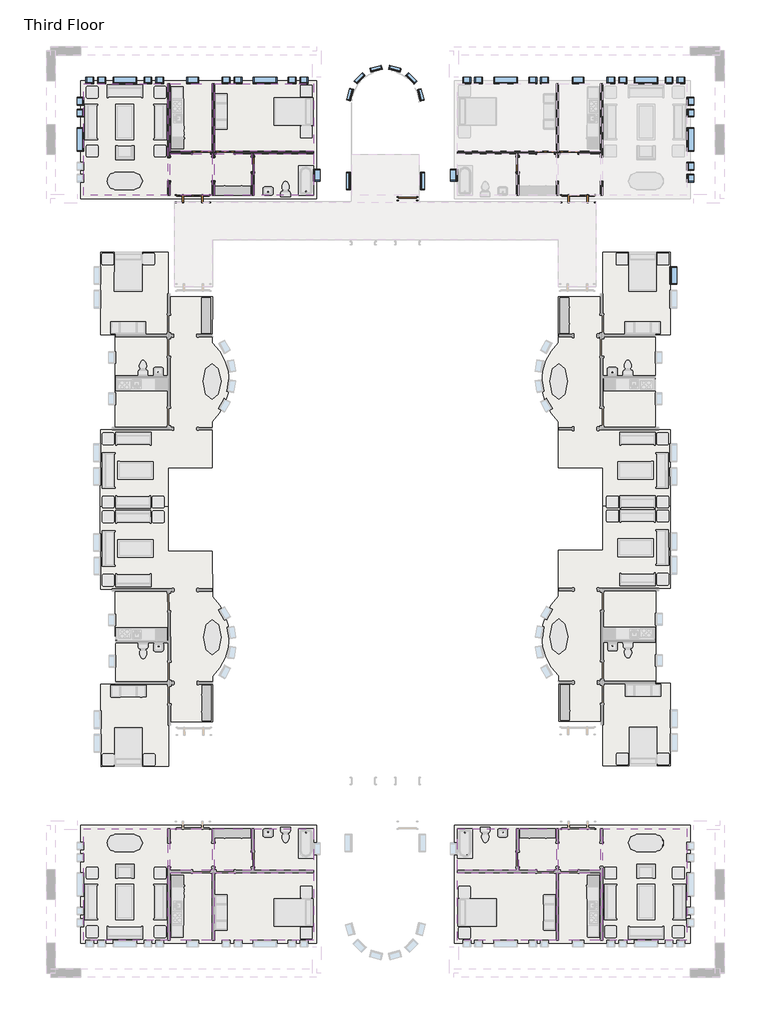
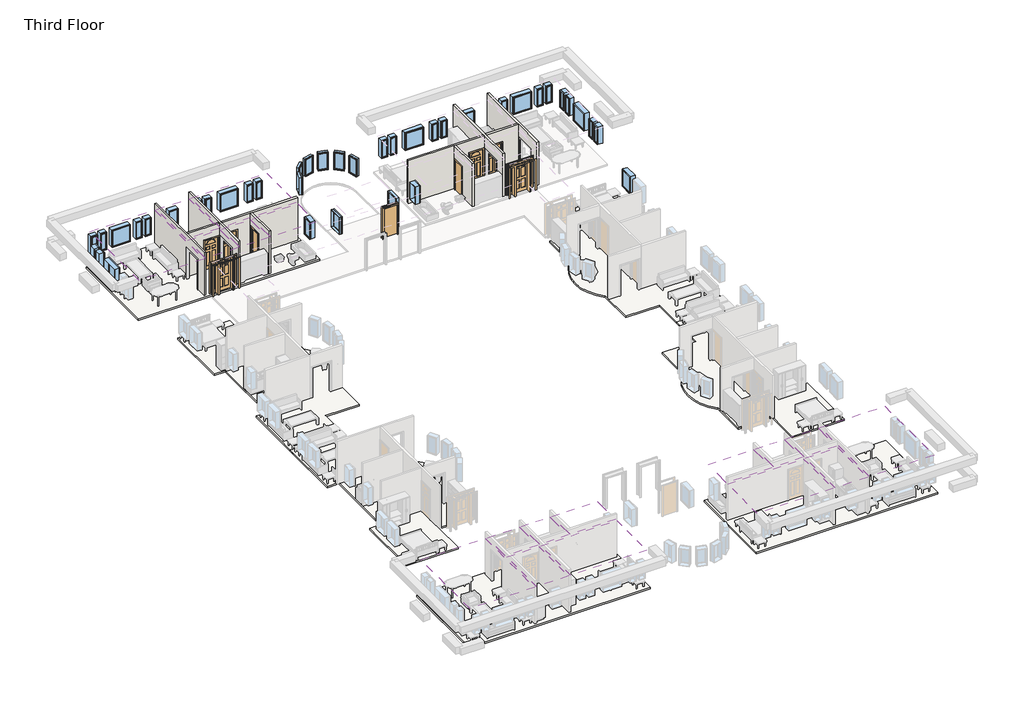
# One storey, part 3 of 5: 41 windows, 18 coverings, 10 walls, 9 doors, 7 slabs.
"""IFC4 building model written with IfcOpenShell, lengths in millimetres."""

from ifc_helpers import new_model, si_unit, point, frame, frame_2d, origin, place, context, project, spatial, polyline, circle_curve, trimmed, segment, composite_curve, outline, extrude, faceted_brep, transform, mapped, element, save
from components import door_829da954, door_2e3b4da2, door_4d6c7550, door_e36758a9, door_16372e1c, door_dba5aa2e, door_ffdb1193, window_da97879f, window_d61ef850, window_60baf983, window_ed80354a, window_80bd9af0, window_0e2fc6ce, window_e2841890, window_6eb97611, window_d89bf842

model = new_model("IFC4")

# Units and contexts
model_context = context("Model", 3, world=origin())
ifc_project = project(units=[si_unit("LENGTHUNIT", "METRE", prefix="MILLI")], contexts=[model_context])

# Site, building, storey
site = spatial("IfcSite", under=ifc_project)
building = spatial("IfcBuilding", under=site)
storey = spatial("IfcBuildingStorey", under=building, Name="Third Floor", Elevation=6096.0)

# Coverings
placement = place(None, origin())
element("IfcCovering", 1, ObjectType="GWB on Mtl. Stud", at=placement, inside=storey, context=model_context, shape_type="SweptSolid", body=[
    extrude(outline(polyline([(-18653.0964563, 10270.0191867), (-18653.0964563, 6787.0441867), (-23747.3839563, 6787.0441867), (-23747.3839563, 10270.0191867), (-18653.0964563, 10270.0191867)])), frame((0.0, 0.0, 8686.8), z_axis=(0.0, 0.0, 1.0), x_axis=(1.0, 0.0, 0.0)), (0.0, 0.0, 1.0), 107.95),
])
element("IfcCovering", 2, ObjectType="GWB on Mtl. Stud", at=placement, inside=storey, context=model_context, shape_type="SweptSolid", body=[
    extrude(outline(polyline([(-23874.3839563, 6787.0441867), (-26033.3839563, 6787.0441867), (-26033.3839563, 10270.0191867), (-23874.3839563, 10270.0191867), (-23874.3839563, 6787.0441867)])), frame((0.0, 0.0, 8686.8), z_axis=(0.0, 0.0, 1.0), x_axis=(1.0, 0.0, 0.0)), (0.0, 0.0, 1.0), 107.95),
])
element("IfcCovering", 3, ObjectType="GWB on Mtl. Stud", at=placement, inside=storey, context=model_context, shape_type="SweptSolid", body=[
    extrude(outline(polyline([(-26160.3839563, 4526.4441867), (-30492.6714563, 4526.4441867), (-30492.6714563, 10270.0191867), (-26160.3839563, 10270.0191867), (-26160.3839563, 4526.4441867)])), frame((0.0, 0.0, 8686.8), z_axis=(0.0, 0.0, 1.0), x_axis=(1.0, 0.0, 0.0)), (0.0, 0.0, 1.0), 107.95),
])
element("IfcCovering", 4, ObjectType="GWB on Mtl. Stud", at=placement, inside=storey, context=model_context, shape_type="SweptSolid", body=[
    extrude(outline(polyline([(-26033.3839563, 4526.4441867), (-26033.3839563, 6660.0441867), (-23874.3839563, 6660.0441867), (-23874.3839563, 4526.4441867), (-26033.3839563, 4526.4441867)])), frame((0.0, 0.0, 8686.8), z_axis=(0.0, 0.0, 1.0), x_axis=(1.0, 0.0, 0.0)), (0.0, 0.0, 1.0), 107.95),
])
element("IfcCovering", 5, ObjectType="GWB on Mtl. Stud", at=placement, inside=storey, context=model_context, shape_type="SweptSolid", body=[
    extrude(outline(polyline([(-23747.3839563, 4526.4441867), (-23747.3839563, 6660.0441867), (-21828.0964563, 6660.0441867), (-21828.0964563, 4526.4441867), (-23747.3839563, 4526.4441867)])), frame((0.0, 0.0, 8686.8), z_axis=(0.0, 0.0, 1.0), x_axis=(1.0, 0.0, 0.0)), (0.0, 0.0, 1.0), 107.95),
])
element("IfcCovering", 6, ObjectType="GWB on Mtl. Stud", at=placement, inside=storey, context=model_context, shape_type="SweptSolid", body=[
    extrude(outline(polyline([(-21701.0964563, 6660.0441867), (-18653.0964563, 6660.0441867), (-18653.0964563, 4526.4441867), (-21701.0964563, 4526.4441867), (-21701.0964563, 6660.0441867)])), frame((0.0, 0.0, 8686.8), z_axis=(0.0, 0.0, 1.0), x_axis=(1.0, 0.0, 0.0)), (0.0, 0.0, 1.0), 107.95),
])
element("IfcCovering", 7, ObjectType="GWB on Mtl. Stud", at=placement, inside=storey, context=model_context, shape_type="SweptSolid", body=[
    extrude(outline(polyline([(-11217.2464563, -33878.3558133), (-11217.2464563, -30395.3808133), (-6122.9589563, -30395.3808133), (-6122.9589563, -33878.3558133), (-11217.2464563, -33878.3558133)])), frame((0.0, 0.0, 8686.8), z_axis=(0.0, 0.0, 1.0), x_axis=(1.0, 0.0, 0.0)), (0.0, 0.0, 1.0), 107.95),
])
element("IfcCovering", 8, ObjectType="GWB on Mtl. Stud", at=placement, inside=storey, context=model_context, shape_type="SweptSolid", body=[
    extrude(outline(polyline([(-5995.9589563, -30395.3808133), (-3836.9589563, -30395.3808133), (-3836.9589563, -33878.3558133), (-5995.9589563, -33878.3558133), (-5995.9589563, -30395.3808133)])), frame((0.0, 0.0, 8686.8), z_axis=(0.0, 0.0, 1.0), x_axis=(1.0, 0.0, 0.0)), (0.0, 0.0, 1.0), 107.95),
])
element("IfcCovering", 9, ObjectType="GWB on Mtl. Stud", at=placement, inside=storey, context=model_context, shape_type="SweptSolid", body=[
    extrude(outline(polyline([(-3709.9589563, -28134.7808133), (622.3285437, -28134.7808133), (622.3285437, -33878.3558133), (-3709.9589563, -33878.3558133), (-3709.9589563, -28134.7808133)])), frame((0.0, 0.0, 8686.8), z_axis=(0.0, 0.0, 1.0), x_axis=(1.0, 0.0, 0.0)), (0.0, 0.0, 1.0), 107.95),
])
element("IfcCovering", 10, ObjectType="GWB on Mtl. Stud", at=placement, inside=storey, context=model_context, shape_type="SweptSolid", body=[
    extrude(outline(polyline([(-3836.9589563, -28134.7808133), (-3836.9589563, -30268.3808133), (-5995.9589563, -30268.3808133), (-5995.9589563, -28134.7808133), (-3836.9589563, -28134.7808133)])), frame((0.0, 0.0, 8686.8), z_axis=(0.0, 0.0, 1.0), x_axis=(1.0, 0.0, 0.0)), (0.0, 0.0, 1.0), 107.95),
])
element("IfcCovering", 11, ObjectType="GWB on Mtl. Stud", at=placement, inside=storey, context=model_context, shape_type="SweptSolid", body=[
    extrude(outline(polyline([(-6122.9589563, -28134.7808133), (-6122.9589563, -30268.3808133), (-8042.2464563, -30268.3808133), (-8042.2464563, -28134.7808133), (-6122.9589563, -28134.7808133)])), frame((0.0, 0.0, 8686.8), z_axis=(0.0, 0.0, 1.0), x_axis=(1.0, 0.0, 0.0)), (0.0, 0.0, 1.0), 107.95),
])
element("IfcCovering", 12, ObjectType="GWB on Mtl. Stud", at=placement, inside=storey, context=model_context, shape_type="SweptSolid", body=[
    extrude(outline(polyline([(-8169.2464563, -30268.3808133), (-11217.2464563, -30268.3808133), (-11217.2464563, -28134.7808133), (-8169.2464563, -28134.7808133), (-8169.2464563, -30268.3808133)])), frame((0.0, 0.0, 8686.8), z_axis=(0.0, 0.0, 1.0), x_axis=(1.0, 0.0, 0.0)), (0.0, 0.0, 1.0), 107.95),
])
element("IfcCovering", 13, ObjectType="GWB on Mtl. Stud", at=placement, inside=storey, context=model_context, shape_type="SweptSolid", body=[
    extrude(outline(polyline([(-18653.0964563, -33878.3558133), (-23747.3839563, -33878.3558133), (-23747.3839563, -30395.3808133), (-18653.0964563, -30395.3808133), (-18653.0964563, -33878.3558133)])), frame((0.0, 0.0, 8686.8), z_axis=(0.0, 0.0, 1.0), x_axis=(1.0, 0.0, 0.0)), (0.0, 0.0, 1.0), 107.95),
])
element("IfcCovering", 14, ObjectType="GWB on Mtl. Stud", at=placement, inside=storey, context=model_context, shape_type="SweptSolid", body=[
    extrude(outline(polyline([(-23874.3839563, -30395.3808133), (-23874.3839563, -33878.3558133), (-26033.3839563, -33878.3558133), (-26033.3839563, -30395.3808133), (-23874.3839563, -30395.3808133)])), frame((0.0, 0.0, 8686.8), z_axis=(0.0, 0.0, 1.0), x_axis=(1.0, 0.0, 0.0)), (0.0, 0.0, 1.0), 107.95),
])
element("IfcCovering", 15, ObjectType="GWB on Mtl. Stud", at=placement, inside=storey, context=model_context, shape_type="SweptSolid", body=[
    extrude(outline(polyline([(-26160.3839563, -28134.7808133), (-26160.3839563, -33878.3558133), (-30492.6714563, -33878.3558133), (-30492.6714563, -28134.7808133), (-26160.3839563, -28134.7808133)])), frame((0.0, 0.0, 8686.8), z_axis=(0.0, 0.0, 1.0), x_axis=(1.0, 0.0, 0.0)), (0.0, 0.0, 1.0), 107.95),
])
element("IfcCovering", 16, ObjectType="GWB on Mtl. Stud", at=placement, inside=storey, context=model_context, shape_type="SweptSolid", body=[
    extrude(outline(polyline([(-26033.3839563, -28134.7808133), (-23874.3839563, -28134.7808133), (-23874.3839563, -30268.3808133), (-26033.3839563, -30268.3808133), (-26033.3839563, -28134.7808133)])), frame((0.0, 0.0, 8686.8), z_axis=(0.0, 0.0, 1.0), x_axis=(1.0, 0.0, 0.0)), (0.0, 0.0, 1.0), 107.95),
])
element("IfcCovering", 17, ObjectType="GWB on Mtl. Stud", at=placement, inside=storey, context=model_context, shape_type="SweptSolid", body=[
    extrude(outline(polyline([(-23747.3839563, -28134.7808133), (-21828.0964563, -28134.7808133), (-21828.0964563, -30268.3808133), (-23747.3839563, -30268.3808133), (-23747.3839563, -28134.7808133)])), frame((0.0, 0.0, 8686.8), z_axis=(0.0, 0.0, 1.0), x_axis=(1.0, 0.0, 0.0)), (0.0, 0.0, 1.0), 107.95),
])
element("IfcCovering", 18, ObjectType="GWB on Mtl. Stud", at=placement, inside=storey, context=model_context, shape_type="SweptSolid", body=[
    extrude(outline(polyline([(-21701.0964563, -30268.3808133), (-21701.0964563, -28134.7808133), (-18653.0964563, -28134.7808133), (-18653.0964563, -30268.3808133), (-21701.0964563, -30268.3808133)])), frame((0.0, 0.0, 8686.8), z_axis=(0.0, 0.0, 1.0), x_axis=(1.0, 0.0, 0.0)), (0.0, 0.0, 1.0), 107.95),
])

# Doors
door_shape = door_829da954(model_context)
element("IfcDoor", 19, ObjectType="Single-Decorative 2 : 36\" x 84\"", at=placement, inside=storey, context=model_context, shape_type="MappedRepresentation", body=[
    mapped(door_shape, transform((-5449.8589563, 6723.5441867, 6096.0), x_axis=(-1.0, 0.0, 0.0), y_axis=(0.0, -1.0, 0.0), z_axis=(0.0, 0.0, 1.0))),
])
element("IfcDoor", 20, ObjectType="Single-Decorative 2 : 36\" x 84\"", at=placement, inside=storey, context=model_context, shape_type="MappedRepresentation", body=[
    mapped(door_shape, transform((-23201.2839563, 6723.5441867, 6096.0), x_axis=(-1.0, 0.0, 0.0), y_axis=(0.0, -1.0, 0.0), z_axis=(0.0, 0.0, 1.0))),
])
door_2_shape = door_2e3b4da2(model_context)
element("IfcDoor", 21, ObjectType="Single-Decorative 2 : 36\" x 84\"", at=placement, inside=storey, context=model_context, shape_type="MappedRepresentation", body=[
    mapped(door_2_shape, transform((-6669.0589563, 6723.5441867, 6096.0), x_axis=(1.0, 0.0, 0.0), y_axis=(0.0, 1.0, 0.0), z_axis=(0.0, 0.0, 1.0))),
])
element("IfcDoor", 22, ObjectType="Single-Decorative 2 : 36\" x 84\"", at=placement, inside=storey, context=model_context, shape_type="MappedRepresentation", body=[
    mapped(door_2_shape, transform((-24420.4839563, 6723.5441867, 6096.0), x_axis=(1.0, 0.0, 0.0), y_axis=(0.0, 1.0, 0.0), z_axis=(0.0, 0.0, 1.0))),
])
door_3_shape = door_4d6c7550(model_context)
element("IfcDoor", 23, ObjectType="Single-Flush : 30\" x 84\"", at=placement, inside=storey, context=model_context, shape_type="MappedRepresentation", body=[
    mapped(door_3_shape, transform((-8105.7464563, 6113.9441867, 6096.0), x_axis=(0.0, 1.0, 0.0), y_axis=(-1.0, 0.0, 0.0), z_axis=(0.0, 0.0, 1.0))),
])
door_4_shape = door_e36758a9(model_context)
element("IfcDoor", 24, ObjectType="Single-Flush : 30\" x 84\"", at=placement, inside=storey, context=model_context, shape_type="MappedRepresentation", body=[
    mapped(door_4_shape, transform((-21764.5964563, 6113.9441867, 6096.0), x_axis=(0.0, 1.0, 0.0), y_axis=(-1.0, 0.0, 0.0), z_axis=(0.0, 0.0, 1.0))),
])
door_5_shape = door_16372e1c(model_context)
element("IfcDoor", 25, ObjectType="Single-Flush : 36\" x 84\"", at=placement, inside=storey, context=model_context, shape_type="MappedRepresentation", body=[
    mapped(door_5_shape, transform((-13792.1714563, 4350.2316867, 6096.0), x_axis=(1.0, 0.0, 0.0), y_axis=(0.0, 1.0, 0.0), z_axis=(0.0, 0.0, 1.0))),
])
door_6_shape = door_dba5aa2e(model_context)
element("IfcDoor", 26, ObjectType="Single-Raised Panel with Sidelights : 36\" x 84\"", at=placement, inside=storey, context=model_context, shape_type="MappedRepresentation", body=[
    mapped(door_6_shape, transform((-4992.6589563, 4350.2316867, 6096.0), x_axis=(-1.0, 0.0, 0.0), y_axis=(0.0, -1.0, 0.0), z_axis=(0.0, 0.0, 1.0))),
])
door_7_shape = door_ffdb1193(model_context)
element("IfcDoor", 27, ObjectType="Single-Raised Panel with Sidelights : 36\" x 84\"", at=placement, inside=storey, context=model_context, shape_type="MappedRepresentation", body=[
    mapped(door_7_shape, transform((-24877.6839563, 4350.2316867, 6096.0), x_axis=(1.0, 0.0, 0.0), y_axis=(0.0, 1.0, 0.0), z_axis=(0.0, 0.0, 1.0))),
])

# Slabs
element("IfcSlab", 28, ObjectType="LW Concrete on Metal Deck", at=placement, inside=storey, context=model_context, shape_type="SweptSolid", body=[
    extrude(outline(polyline([(-30657.7714563, 10435.1191867), (-18487.9964563, 10435.1191867), (-18487.9964563, 4361.3441867), (-30657.7714563, 4361.3441867), (-30657.7714563, 10435.1191867)])), frame((0.0, 0.0, 5991.225), z_axis=(0.0, 0.0, 1.0), x_axis=(1.0, 0.0, 0.0)), (0.0, 0.0, 1.0), 104.775),
])
element("IfcSlab", 29, ObjectType="LW Concrete on Metal Deck", at=placement, inside=storey, context=model_context, shape_type="SweptSolid", body=[
    extrude(outline(polyline([(787.4285437, -34043.4558133), (-11382.3464563, -34043.4558133), (-11382.3464563, -27969.6808133), (787.4285437, -27969.6808133), (787.4285437, -34043.4558133)])), frame((0.0, 0.0, 5991.225), z_axis=(0.0, 0.0, 1.0), x_axis=(1.0, 0.0, 0.0)), (0.0, 0.0, 1.0), 104.775),
])
element("IfcSlab", 30, ObjectType="LW Concrete on Metal Deck", at=placement, inside=storey, context=model_context, shape_type="SweptSolid", body=[
    extrude(outline(polyline([(-30657.7714563, -34043.4558133), (-30657.7714563, -27969.6808133), (-18487.9964563, -27969.6808133), (-18487.9964563, -34043.4558133), (-30657.7714563, -34043.4558133)])), frame((0.0, 0.0, 5991.225), z_axis=(0.0, 0.0, 1.0), x_axis=(1.0, 0.0, 0.0)), (0.0, 0.0, 1.0), 104.775),
])
element("IfcSlab", 31, ObjectType="LW Concrete on Metal Deck", at=placement, inside=storey, context=model_context, shape_type="SweptSolid", body=[
    extrude(outline(composite_curve([segment(polyline([(-240.9230199, 1586.7324761), (-237.701615, -2658.2413016), (-999.7013956, -2658.8195643), (-995.9836486, -7557.8431536), (-233.983868, -7557.264891), (-230.7624631, -11802.2386686), (-3713.7364602, -11804.8818109), (-3715.4712482, -9518.8824691), (-6001.47059, -9520.6172571), (-6003.2619221, -7160.1074386)]), True, "CONTINUOUS"), segment(trimmed(circle_curve(frame_2d((-3991.621775, -5110.6032635)), 2871.7875), [point((-6003.2619221, -7160.1074386))], [point((-6006.3702387, -3064.1546144))], False, "CARTESIAN"), True, "CONTINUOUS"), segment(polyline([(-6006.3702387, -3064.1546144), (-6008.1615708, -703.6447959), (-3722.162229, -701.9100079), (-3723.897017, 1584.0893338), (-240.9230199, 1586.7324761)]), True, "CONTINUOUS")], self_intersect=False)), frame((0.0, 0.0, 5991.225), z_axis=(0.0, 0.0, 1.0), x_axis=(1.0, 0.0, 0.0)), (0.0, 0.0, 1.0), 104.775),
])
element("IfcSlab", 32, ObjectType="LW Concrete on Metal Deck", at=placement, inside=storey, context=model_context, shape_type="SweptSolid", body=[
    extrude(outline(composite_curve([segment(polyline([(-29629.4198927, 1586.7324761), (-26146.4458956, 1584.0893338), (-26148.1806836, -701.9100079), (-23862.1813418, -703.6447959), (-23863.972674, -3064.1546144)]), True, "CONTINUOUS"), segment(trimmed(circle_curve(frame_2d((-25878.7211376, -5110.6032635)), 2871.7875), [point((-23863.972674, -3064.1546144))], [point((-23867.0809905, -7160.1074386))], False, "CARTESIAN"), True, "CONTINUOUS"), segment(polyline([(-23867.0809905, -7160.1074386), (-23868.8723227, -9520.6172571), (-26154.8716644, -9518.8824691), (-26156.6064524, -11804.8818109), (-29639.5804495, -11802.2386686), (-29636.3590446, -7557.264891), (-28874.359264, -7557.8431536), (-28870.641517, -2658.8195643), (-29632.6412976, -2658.2413016), (-29629.4198927, 1586.7324761)]), True, "CONTINUOUS")], self_intersect=False)), frame((0.0, 0.0, 5991.225), z_axis=(0.0, 0.0, 1.0), x_axis=(1.0, 0.0, 0.0)), (0.0, 0.0, 1.0), 104.775),
])
element("IfcSlab", 33, ObjectType="LW Concrete on Metal Deck", at=placement, inside=storey, context=model_context, shape_type="SweptSolid", body=[
    extrude(outline(composite_curve([segment(polyline([(-220.8330845, -24886.5771888), (-3703.8070816, -24889.220331), (-3705.5418696, -22603.2209892), (-5991.5412113, -22604.9557772), (-5993.3325434, -20244.4459587)]), True, "CONTINUOUS"), segment(trimmed(circle_curve(frame_2d((-3981.6923964, -18194.9417836)), 2871.7875), [point((-5993.3325434, -20244.4459587))], [point((-5996.44086, -16148.4931345))], False, "CARTESIAN"), True, "CONTINUOUS"), segment(polyline([(-5996.44086, -16148.4931345), (-5998.2321921, -13787.983316), (-3712.2328504, -13786.248528), (-3713.9676383, -11500.2491863), (-230.9936413, -11497.606044), (-227.7722364, -15742.5798217), (-989.772017, -15743.1580844), (-986.05427, -20642.1816737), (-224.0544894, -20641.6034111), (-220.8330845, -24886.5771888)]), True, "CONTINUOUS")], self_intersect=False)), frame((0.0, 0.0, 5991.225), z_axis=(0.0, 0.0, 1.0), x_axis=(1.0, 0.0, 0.0)), (0.0, 0.0, 1.0), 104.775),
])
element("IfcSlab", 34, ObjectType="LW Concrete on Metal Deck", at=placement, inside=storey, context=model_context, shape_type="SweptSolid", body=[
    extrude(outline(composite_curve([segment(polyline([(-29609.2961082, -24931.1815598), (-29618.9603154, -20686.2175607), (-28856.9622901, -20684.4827741), (-28868.1155225, -15785.4704699), (-29630.1135478, -15787.2052566), (-29639.777755, -11542.2412575), (-26156.8117812, -11534.3118369), (-26151.6074213, -13820.3059127), (-23865.6133455, -13815.1015528), (-23860.2393533, -16175.6059337)]), True, "CONTINUOUS"), segment(trimmed(circle_curve(frame_2d((-25868.7665498, -18228.1609137)), 2871.7875), [point((-23860.2393533, -16175.6059337))], [point((-23850.9144107, -20271.5493226))], False, "CARTESIAN"), True, "CONTINUOUS"), segment(polyline([(-23850.9144107, -20271.5493226), (-23845.5404184, -22632.0537035), (-26131.5344942, -22637.2580634), (-26126.3301343, -24923.2521392), (-29609.2961082, -24931.1815598)]), True, "CONTINUOUS")], self_intersect=False)), frame((0.0, 0.0, 5991.225), z_axis=(0.0, 0.0, 1.0), x_axis=(1.0, 0.0, 0.0)), (0.0, 0.0, 1.0), 104.775),
])

# Walls
element("IfcWall", 35, ObjectType="Interior - 5\" Partition (2-hr)", at=placement, inside=storey, context=model_context, shape_type="Brep", body=[
    faceted_brep([(-3709.9589563, 10270.0191867, 6096.0), (-3709.9589563, 6483.8316867, 6096.0), (-3836.9589563, 6483.8316867, 6096.0), (-3836.9589563, 6660.0441867, 6096.0), (-3836.9589563, 6787.0441867, 6096.0), (-3836.9589563, 10270.0191867, 6096.0), (-3709.9589563, 5264.6316867, 6096.0), (-3709.9589563, 4526.4441867, 6096.0), (-3836.9589563, 4526.4441867, 6096.0), (-3836.9589563, 5264.6316867, 6096.0), (-3836.9589563, 10270.0191867, 9144.0), (-3836.9589563, 6787.0441867, 9144.0), (-3836.9589563, 6660.0441867, 9144.0), (-3836.9589563, 4526.4441867, 9144.0), (-3709.9589563, 4526.4441867, 9144.0), (-3709.9589563, 10270.0191867, 9144.0), (-3836.9589563, 6483.8316867, 8229.6), (-3836.9589563, 5264.6316867, 8229.6), (-3709.9589563, 6483.8316867, 8229.6), (-3709.9589563, 5264.6316867, 8229.6)], [[[0, 1, 2, 3, 4, 5]], [[6, 7, 8, 9]], [[10, 11, 12, 13, 14, 15]], [[5, 4, 3, 2, 16, 17, 9, 8, 13, 12, 11, 10]], [[18, 1, 0, 15, 14, 7, 6, 19]], [[5, 10, 15, 0]], [[13, 8, 7, 14]], [[9, 17, 19, 6]], [[16, 2, 1, 18]], [[17, 16, 18, 19]]]),
])
element("IfcWall", 36, ObjectType="Interior - 5\" Partition (2-hr)", at=placement, inside=storey, context=model_context, shape_type="Brep", body=[
    faceted_brep([(-6122.9589563, 4526.4441867, 6096.0), (-6122.9589563, 5264.6316867, 6096.0), (-5995.9589563, 5264.6316867, 6096.0), (-5995.9589563, 4526.4441867, 6096.0), (-6122.9589563, 6483.8316867, 6096.0), (-6122.9589563, 6660.0441867, 6096.0), (-6122.9589563, 6787.0441867, 6096.0), (-6122.9589563, 10270.0191867, 6096.0), (-5995.9589563, 10270.0191867, 6096.0), (-5995.9589563, 6787.0441867, 6096.0), (-5995.9589563, 6660.0441867, 6096.0), (-5995.9589563, 6483.8316867, 6096.0), (-6122.9589563, 10270.0191867, 9144.0), (-6122.9589563, 6787.0441867, 9144.0), (-6122.9589563, 6660.0441867, 9144.0), (-6122.9589563, 4526.4441867, 9144.0), (-5995.9589563, 4526.4441867, 9144.0), (-5995.9589563, 6660.0441867, 9144.0), (-5995.9589563, 6787.0441867, 9144.0), (-5995.9589563, 10270.0191867, 9144.0), (-6122.9589563, 5264.6316867, 8229.6), (-6122.9589563, 6483.8316867, 8229.6), (-5995.9589563, 5264.6316867, 8229.6), (-5995.9589563, 6483.8316867, 8229.6)], [[[0, 1, 2, 3]], [[4, 5, 6, 7, 8, 9, 10, 11]], [[12, 13, 14, 15, 16, 17, 18, 19]], [[20, 1, 0, 15, 14, 13, 12, 7, 6, 5, 4, 21]], [[3, 2, 22, 23, 11, 10, 9, 8, 19, 18, 17, 16]], [[7, 12, 19, 8]], [[15, 0, 3, 16]], [[11, 23, 21, 4]], [[22, 2, 1, 20]], [[23, 22, 20, 21]]]),
])
element("IfcWall", 37, ObjectType="Interior - 5\" Partition (2-hr)", at=placement, inside=storey, context=model_context, shape_type="Brep", body=[
    faceted_brep([(-6122.9589563, 6660.0441867, 6096.0), (-6211.8589563, 6660.0441867, 6096.0), (-6211.8589563, 6787.0441867, 6096.0), (-6122.9589563, 6787.0441867, 6096.0), (-7126.2589563, 6660.0441867, 6096.0), (-8042.2464563, 6660.0441867, 6096.0), (-8169.2464563, 6660.0441867, 6096.0), (-11217.2464563, 6660.0441867, 6096.0), (-11217.2464563, 6787.0441867, 6096.0), (-7126.2589563, 6787.0441867, 6096.0), (-11217.2464563, 6660.0441867, 9144.0), (-8169.2464563, 6660.0441867, 9144.0), (-8042.2464563, 6660.0441867, 9144.0), (-6122.9589563, 6660.0441867, 9144.0), (-6122.9589563, 6787.0441867, 9144.0), (-11217.2464563, 6787.0441867, 9144.0), (-6211.8589563, 6660.0441867, 8229.6), (-7126.2589563, 6660.0441867, 8229.6), (-6211.8589563, 6787.0441867, 8229.6), (-7126.2589563, 6787.0441867, 8229.6)], [[[0, 1, 2, 3]], [[4, 5, 6, 7, 8, 9]], [[10, 11, 12, 13, 14, 15]], [[16, 1, 0, 13, 12, 11, 10, 7, 6, 5, 4, 17]], [[3, 2, 18, 19, 9, 8, 15, 14]], [[13, 0, 3, 14]], [[7, 10, 15, 8]], [[18, 2, 1, 16]], [[19, 18, 16, 17]], [[9, 19, 17, 4]]]),
])
element("IfcWall", 38, ObjectType="Interior - 5\" Partition (2-hr)", at=placement, inside=storey, context=model_context, shape_type="SweptSolid", body=[
    extrude(outline(polyline([(6660.0441867, 6096.0), (6494.9441867, 6096.0), (6494.9441867, 8229.6), (5732.9441867, 8229.6), (5732.9441867, 6096.0), (4526.4441867, 6096.0), (4526.4441867, 9144.0), (6660.0441867, 9144.0), (6660.0441867, 6096.0)])), frame((-8169.2464563, 0.0, 0.0), z_axis=(1.0, 0.0, 0.0), x_axis=(0.0, 1.0, 0.0)), (0.0, 0.0, 1.0), 127.0),
])
element("IfcWall", 39, ObjectType="Interior - 5\" Partition (2-hr)", at=placement, inside=storey, context=model_context, shape_type="SweptSolid", body=[
    extrude(outline(polyline([(6096.0, -5995.9589563), (6096.0, -5907.0589563), (8229.6, -5907.0589563), (8229.6, -4992.6589563), (6096.0, -4992.6589563), (6096.0, -3836.9589563), (9144.0, -3836.9589563), (9144.0, -5995.9589563), (6096.0, -5995.9589563)])), frame((0.0, 6660.0441867, 0.0), z_axis=(0.0, 1.0, 0.0), x_axis=(0.0, 0.0, 1.0)), (0.0, 0.0, 1.0), 127.0),
])
element("IfcWall", 40, ObjectType="Interior - 5\" Partition (2-hr)", at=placement, inside=storey, context=model_context, shape_type="Brep", body=[
    faceted_brep([(-26033.3839563, 10270.0191867, 6096.0), (-26033.3839563, 6787.0441867, 6096.0), (-26033.3839563, 6660.0441867, 6096.0), (-26033.3839563, 6483.8316867, 6096.0), (-26160.3839563, 6483.8316867, 6096.0), (-26160.3839563, 10270.0191867, 6096.0), (-26033.3839563, 5264.6316867, 6096.0), (-26033.3839563, 4526.4441867, 6096.0), (-26160.3839563, 4526.4441867, 6096.0), (-26160.3839563, 5264.6316867, 6096.0), (-26160.3839563, 10270.0191867, 9144.0), (-26160.3839563, 4526.4441867, 9144.0), (-26033.3839563, 4526.4441867, 9144.0), (-26033.3839563, 6660.0441867, 9144.0), (-26033.3839563, 6787.0441867, 9144.0), (-26033.3839563, 10270.0191867, 9144.0), (-26160.3839563, 6483.8316867, 8229.6), (-26160.3839563, 5264.6316867, 8229.6), (-26033.3839563, 6483.8316867, 8229.6), (-26033.3839563, 5264.6316867, 8229.6)], [[[0, 1, 2, 3, 4, 5]], [[6, 7, 8, 9]], [[10, 11, 12, 13, 14, 15]], [[5, 4, 16, 17, 9, 8, 11, 10]], [[18, 3, 2, 1, 0, 15, 14, 13, 12, 7, 6, 19]], [[5, 10, 15, 0]], [[11, 8, 7, 12]], [[9, 17, 19, 6]], [[16, 4, 3, 18]], [[17, 16, 18, 19]]]),
])
element("IfcWall", 41, ObjectType="Interior - 5\" Partition (2-hr)", at=placement, inside=storey, context=model_context, shape_type="Brep", body=[
    faceted_brep([(-23874.3839563, 4526.4441867, 6096.0), (-23874.3839563, 5264.6316867, 6096.0), (-23747.3839563, 5264.6316867, 6096.0), (-23747.3839563, 4526.4441867, 6096.0), (-23874.3839563, 6483.8316867, 6096.0), (-23874.3839563, 6660.0441867, 6096.0), (-23874.3839563, 6787.0441867, 6096.0), (-23874.3839563, 10270.0191867, 6096.0), (-23747.3839563, 10270.0191867, 6096.0), (-23747.3839563, 6787.0441867, 6096.0), (-23747.3839563, 6660.0441867, 6096.0), (-23747.3839563, 6483.8316867, 6096.0), (-23874.3839563, 10270.0191867, 9144.0), (-23874.3839563, 6787.0441867, 9144.0), (-23874.3839563, 6660.0441867, 9144.0), (-23874.3839563, 4526.4441867, 9144.0), (-23747.3839563, 4526.4441867, 9144.0), (-23747.3839563, 6660.0441867, 9144.0), (-23747.3839563, 6787.0441867, 9144.0), (-23747.3839563, 10270.0191867, 9144.0), (-23874.3839563, 5264.6316867, 8229.6), (-23874.3839563, 6483.8316867, 8229.6), (-23747.3839563, 5264.6316867, 8229.6), (-23747.3839563, 6483.8316867, 8229.6)], [[[0, 1, 2, 3]], [[4, 5, 6, 7, 8, 9, 10, 11]], [[12, 13, 14, 15, 16, 17, 18, 19]], [[20, 1, 0, 15, 14, 13, 12, 7, 6, 5, 4, 21]], [[3, 2, 22, 23, 11, 10, 9, 8, 19, 18, 17, 16]], [[7, 12, 19, 8]], [[15, 0, 3, 16]], [[11, 23, 21, 4]], [[22, 2, 1, 20]], [[23, 22, 20, 21]]]),
])
element("IfcWall", 42, ObjectType="Interior - 5\" Partition (2-hr)", at=placement, inside=storey, context=model_context, shape_type="Brep", body=[
    faceted_brep([(-23747.3839563, 6787.0441867, 6096.0), (-23658.4839563, 6787.0441867, 6096.0), (-23658.4839563, 6660.0441867, 6096.0), (-23747.3839563, 6660.0441867, 6096.0), (-22744.0839563, 6787.0441867, 6096.0), (-18653.0964563, 6787.0441867, 6096.0), (-18653.0964563, 6660.0441867, 6096.0), (-21701.0964563, 6660.0441867, 6096.0), (-21828.0964563, 6660.0441867, 6096.0), (-22744.0839563, 6660.0441867, 6096.0), (-18653.0964563, 6787.0441867, 9144.0), (-23747.3839563, 6787.0441867, 9144.0), (-23747.3839563, 6660.0441867, 9144.0), (-21828.0964563, 6660.0441867, 9144.0), (-21701.0964563, 6660.0441867, 9144.0), (-18653.0964563, 6660.0441867, 9144.0), (-23658.4839563, 6787.0441867, 8229.6), (-22744.0839563, 6787.0441867, 8229.6), (-23658.4839563, 6660.0441867, 8229.6), (-22744.0839563, 6660.0441867, 8229.6)], [[[0, 1, 2, 3]], [[4, 5, 6, 7, 8, 9]], [[10, 11, 12, 13, 14, 15]], [[16, 1, 0, 11, 10, 5, 4, 17]], [[3, 2, 18, 19, 9, 8, 7, 6, 15, 14, 13, 12]], [[11, 0, 3, 12]], [[5, 10, 15, 6]], [[18, 2, 1, 16]], [[19, 18, 16, 17]], [[9, 19, 17, 4]]]),
])
element("IfcWall", 43, ObjectType="Interior - 5\" Partition (2-hr)", at=placement, inside=storey, context=model_context, shape_type="SweptSolid", body=[
    extrude(outline(polyline([(6660.0441867, 6096.0), (6494.9441867, 6096.0), (6494.9441867, 8229.6), (5732.9441867, 8229.6), (5732.9441867, 6096.0), (4526.4441867, 6096.0), (4526.4441867, 9144.0), (6660.0441867, 9144.0), (6660.0441867, 6096.0)])), frame((-21828.0964563, 0.0, 0.0), z_axis=(1.0, 0.0, 0.0), x_axis=(0.0, 1.0, 0.0)), (0.0, 0.0, 1.0), 127.0),
])
element("IfcWall", 44, ObjectType="Interior - 5\" Partition (2-hr)", at=placement, inside=storey, context=model_context, shape_type="SweptSolid", body=[
    extrude(outline(polyline([(8229.6, -23963.2839563), (6096.0, -23963.2839563), (6096.0, -23874.3839563), (9144.0, -23874.3839563), (9144.0, -26033.3839563), (6096.0, -26033.3839563), (6096.0, -24877.6839563), (8229.6, -24877.6839563), (8229.6, -23963.2839563)])), frame((0.0, 6660.0441867, 0.0), z_axis=(0.0, 1.0, 0.0), x_axis=(0.0, 0.0, 1.0)), (0.0, 0.0, 1.0), 127.0),
])

# Windows
window_shape = window_da97879f(model_context)
element("IfcWindow", 45, ObjectType="Fixed : 16\" x 48\"", at=placement, inside=storey, context=model_context, shape_type="MappedRepresentation", body=[
    mapped(window_shape, transform((-10771.1589563, 10446.2316867, 6096.0), x_axis=(-1.0, 0.0, 0.0), y_axis=(0.0, -1.0, 0.0), z_axis=(0.0, 0.0, 1.0))),
])
element("IfcWindow", 46, ObjectType="Fixed : 16\" x 48\"", at=placement, inside=storey, context=model_context, shape_type="MappedRepresentation", body=[
    mapped(window_shape, transform((-10161.5589563, 10446.2316867, 6096.0), x_axis=(-1.0, 0.0, 0.0), y_axis=(0.0, -1.0, 0.0), z_axis=(0.0, 0.0, 1.0))),
])
element("IfcWindow", 47, ObjectType="Fixed : 16\" x 48\"", at=placement, inside=storey, context=model_context, shape_type="MappedRepresentation", body=[
    mapped(window_shape, transform((-3328.9589563, 10446.2316867, 6096.0), x_axis=(-1.0, 0.0, 0.0), y_axis=(0.0, -1.0, 0.0), z_axis=(0.0, 0.0, 1.0))),
])
element("IfcWindow", 48, ObjectType="Fixed : 16\" x 48\"", at=placement, inside=storey, context=model_context, shape_type="MappedRepresentation", body=[
    mapped(window_shape, transform((-2719.3589563, 10446.2316867, 6096.0), x_axis=(-1.0, 0.0, 0.0), y_axis=(0.0, -1.0, 0.0), z_axis=(0.0, 0.0, 1.0))),
])
element("IfcWindow", 49, ObjectType="Fixed : 16\" x 48\"", at=placement, inside=storey, context=model_context, shape_type="MappedRepresentation", body=[
    mapped(window_shape, transform((798.5410437, 9417.5316867, 6096.0), x_axis=(0.0, 1.0, 0.0), y_axis=(-1.0, 0.0, 0.0), z_axis=(0.0, 0.0, 1.0))),
])
element("IfcWindow", 50, ObjectType="Fixed : 16\" x 48\"", at=placement, inside=storey, context=model_context, shape_type="MappedRepresentation", body=[
    mapped(window_shape, transform((798.5410437, 8807.9316867, 6096.0), x_axis=(0.0, 1.0, 0.0), y_axis=(-1.0, 0.0, 0.0), z_axis=(0.0, 0.0, 1.0))),
])
element("IfcWindow", 51, ObjectType="Fixed : 16\" x 48\"", at=placement, inside=storey, context=model_context, shape_type="MappedRepresentation", body=[
    mapped(window_shape, transform((-23188.5839563, 10446.2316867, 6096.0), x_axis=(-1.0, 0.0, 0.0), y_axis=(0.0, -1.0, 0.0), z_axis=(0.0, 0.0, 1.0))),
])
element("IfcWindow", 52, ObjectType="Fixed : 16\" x 48\"", at=placement, inside=storey, context=model_context, shape_type="MappedRepresentation", body=[
    mapped(window_shape, transform((-22578.9839563, 10446.2316867, 6096.0), x_axis=(-1.0, 0.0, 0.0), y_axis=(0.0, -1.0, 0.0), z_axis=(0.0, 0.0, 1.0))),
])
element("IfcWindow", 53, ObjectType="Fixed : 16\" x 48\"", at=placement, inside=storey, context=model_context, shape_type="MappedRepresentation", body=[
    mapped(window_shape, transform((-30224.3839563, 10446.2316867, 6096.0), x_axis=(-1.0, 0.0, 0.0), y_axis=(0.0, -1.0, 0.0), z_axis=(0.0, 0.0, 1.0))),
])
element("IfcWindow", 54, ObjectType="Fixed : 16\" x 48\"", at=placement, inside=storey, context=model_context, shape_type="MappedRepresentation", body=[
    mapped(window_shape, transform((-29614.7839563, 10446.2316867, 6096.0), x_axis=(-1.0, 0.0, 0.0), y_axis=(0.0, -1.0, 0.0), z_axis=(0.0, 0.0, 1.0))),
])
window_2_shape = window_d61ef850(model_context)
element("IfcWindow", 55, ObjectType="Fixed : 16\" x 48\"", at=placement, inside=storey, context=model_context, shape_type="MappedRepresentation", body=[
    mapped(window_2_shape, transform((-6681.7589563, 10446.2316867, 6096.0), x_axis=(1.0, 0.0, 0.0), y_axis=(0.0, 1.0, 0.0), z_axis=(0.0, 0.0, 1.0))),
])
element("IfcWindow", 56, ObjectType="Fixed : 16\" x 48\"", at=placement, inside=storey, context=model_context, shape_type="MappedRepresentation", body=[
    mapped(window_2_shape, transform((-7291.3589563, 10446.2316867, 6096.0), x_axis=(1.0, 0.0, 0.0), y_axis=(0.0, 1.0, 0.0), z_axis=(0.0, 0.0, 1.0))),
])
element("IfcWindow", 57, ObjectType="Fixed : 16\" x 48\"", at=placement, inside=storey, context=model_context, shape_type="MappedRepresentation", body=[
    mapped(window_2_shape, transform((354.0410437, 10446.2316867, 6096.0), x_axis=(1.0, 0.0, 0.0), y_axis=(0.0, 1.0, 0.0), z_axis=(0.0, 0.0, 1.0))),
])
element("IfcWindow", 58, ObjectType="Fixed : 16\" x 48\"", at=placement, inside=storey, context=model_context, shape_type="MappedRepresentation", body=[
    mapped(window_2_shape, transform((-255.5589563, 10446.2316867, 6096.0), x_axis=(1.0, 0.0, 0.0), y_axis=(0.0, 1.0, 0.0), z_axis=(0.0, 0.0, 1.0))),
])
element("IfcWindow", 59, ObjectType="Fixed : 16\" x 48\"", at=placement, inside=storey, context=model_context, shape_type="MappedRepresentation", body=[
    mapped(window_2_shape, transform((798.5410437, 5378.9316867, 6096.0), x_axis=(0.0, -1.0, 0.0), y_axis=(1.0, 0.0, 0.0), z_axis=(0.0, 0.0, 1.0))),
])
element("IfcWindow", 60, ObjectType="Fixed : 16\" x 48\"", at=placement, inside=storey, context=model_context, shape_type="MappedRepresentation", body=[
    mapped(window_2_shape, transform((798.5410437, 5988.5316867, 6096.0), x_axis=(0.0, -1.0, 0.0), y_axis=(1.0, 0.0, 0.0), z_axis=(0.0, 0.0, 1.0))),
])
element("IfcWindow", 61, ObjectType="Fixed : 16\" x 48\"", at=placement, inside=storey, context=model_context, shape_type="MappedRepresentation", body=[
    mapped(window_2_shape, transform((-19099.1839563, 10446.2316867, 6096.0), x_axis=(1.0, 0.0, 0.0), y_axis=(0.0, 1.0, 0.0), z_axis=(0.0, 0.0, 1.0))),
])
element("IfcWindow", 62, ObjectType="Fixed : 16\" x 48\"", at=placement, inside=storey, context=model_context, shape_type="MappedRepresentation", body=[
    mapped(window_2_shape, transform((-19708.7839563, 10446.2316867, 6096.0), x_axis=(1.0, 0.0, 0.0), y_axis=(0.0, 1.0, 0.0), z_axis=(0.0, 0.0, 1.0))),
])
element("IfcWindow", 63, ObjectType="Fixed : 16\" x 48\"", at=placement, inside=storey, context=model_context, shape_type="MappedRepresentation", body=[
    mapped(window_2_shape, transform((-26541.3839563, 10446.2316867, 6096.0), x_axis=(1.0, 0.0, 0.0), y_axis=(0.0, 1.0, 0.0), z_axis=(0.0, 0.0, 1.0))),
])
element("IfcWindow", 64, ObjectType="Fixed : 16\" x 48\"", at=placement, inside=storey, context=model_context, shape_type="MappedRepresentation", body=[
    mapped(window_2_shape, transform((-27150.9839563, 10446.2316867, 6096.0), x_axis=(1.0, 0.0, 0.0), y_axis=(0.0, 1.0, 0.0), z_axis=(0.0, 0.0, 1.0))),
])
element("IfcWindow", 65, ObjectType="Fixed : 16\" x 48\"", at=placement, inside=storey, context=model_context, shape_type="MappedRepresentation", body=[
    mapped(window_2_shape, transform((-30668.8839563, 9417.5316867, 6096.0), x_axis=(0.0, 1.0, 0.0), y_axis=(-1.0, 0.0, 0.0), z_axis=(0.0, 0.0, 1.0))),
])
element("IfcWindow", 66, ObjectType="Fixed : 16\" x 48\"", at=placement, inside=storey, context=model_context, shape_type="MappedRepresentation", body=[
    mapped(window_2_shape, transform((-30668.8839563, 8807.9316867, 6096.0), x_axis=(0.0, 1.0, 0.0), y_axis=(-1.0, 0.0, 0.0), z_axis=(0.0, 0.0, 1.0))),
])
window_3_shape = window_60baf983(model_context)
element("IfcWindow", 67, ObjectType="Fixed : 24\" x 48\"", at=placement, inside=storey, context=model_context, shape_type="MappedRepresentation", body=[
    mapped(window_3_shape, transform((-5030.7589563, 10446.2316867, 6096.0), x_axis=(-1.0, 0.0, 0.0), y_axis=(0.0, -1.0, 0.0), z_axis=(0.0, 0.0, 1.0))),
])
element("IfcWindow", 68, ObjectType="Fixed : 24\" x 48\"", at=placement, inside=storey, context=model_context, shape_type="MappedRepresentation", body=[
    mapped(window_3_shape, transform((-11393.4589563, 5531.3316867, 6096.0), x_axis=(0.0, -1.0, 0.0), y_axis=(1.0, 0.0, 0.0), z_axis=(0.0, 0.0, 1.0))),
])
window_4_shape = window_ed80354a(model_context)
element("IfcWindow", 69, ObjectType="Fixed : 24\" x 48\"", at=placement, inside=storey, context=model_context, shape_type="MappedRepresentation", body=[
    mapped(window_4_shape, transform((-24839.5839563, 10446.2316867, 6096.0), x_axis=(1.0, 0.0, 0.0), y_axis=(0.0, 1.0, 0.0), z_axis=(0.0, 0.0, 1.0))),
])
element("IfcWindow", 70, ObjectType="Fixed : 24\" x 48\"", at=placement, inside=storey, context=model_context, shape_type="MappedRepresentation", body=[
    mapped(window_4_shape, transform((-18476.8839563, 5531.3316867, 6096.0), x_axis=(0.0, -1.0, 0.0), y_axis=(1.0, 0.0, 0.0), z_axis=(0.0, 0.0, 1.0))),
])
window_5_shape = window_80bd9af0(model_context)
element("IfcWindow", 71, ObjectType="Fixed : 24\" x 48\"", at=placement, inside=storey, context=model_context, shape_type="MappedRepresentation", body=[
    mapped(window_5_shape, transform((-16762.064163, 9683.0417496, 6096.0), x_axis=(-0.26176149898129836, -0.9651325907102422, 0.0), y_axis=(0.9651325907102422, -0.26176149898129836, 0.0), z_axis=(0.0, 0.0, 1.0))),
])
element("IfcWindow", 72, ObjectType="Fixed : 24\" x 48\"", at=placement, inside=storey, context=model_context, shape_type="MappedRepresentation", body=[
    mapped(window_5_shape, transform((-16289.3019188, 10535.3943388, 6096.0), x_axis=(-0.7092584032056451, -0.7049485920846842, 0.0), y_axis=(0.7049485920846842, -0.7092584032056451, 0.0), z_axis=(0.0, 0.0, 1.0))),
])
element("IfcWindow", 73, ObjectType="Fixed : 24\" x 48\"", at=placement, inside=storey, context=model_context, shape_type="MappedRepresentation", body=[
    mapped(window_5_shape, transform((-15453.7015108, 11037.1722121, 6096.0), x_axis=(-0.9667100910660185, -0.25587418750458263, 0.0), y_axis=(0.25587418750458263, -0.9667100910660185, 0.0), z_axis=(0.0, 0.0, 1.0))),
])
element("IfcWindow", 74, ObjectType="Fixed : 24\" x 48\"", at=placement, inside=storey, context=model_context, shape_type="MappedRepresentation", body=[
    mapped(window_5_shape, transform((-14479.1613934, 11053.9243933, 6096.0), x_axis=(-0.9651325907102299, 0.2617614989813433, 0.0), y_axis=(-0.2617614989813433, -0.9651325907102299, 0.0), z_axis=(0.0, 0.0, 1.0))),
])
element("IfcWindow", 75, ObjectType="Fixed : 24\" x 48\"", at=placement, inside=storey, context=model_context, shape_type="MappedRepresentation", body=[
    mapped(window_5_shape, transform((-13626.8088042, 10581.1621492, 6096.0), x_axis=(-0.7049485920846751, 0.7092584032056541, 0.0), y_axis=(-0.7092584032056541, -0.7049485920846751, 0.0), z_axis=(0.0, 0.0, 1.0))),
])
element("IfcWindow", 76, ObjectType="Fixed : 24\" x 48\"", at=placement, inside=storey, context=model_context, shape_type="MappedRepresentation", body=[
    mapped(window_5_shape, transform((-13125.0309309, 9745.5617412, 6096.0), x_axis=(-0.25587418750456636, 0.9667100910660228, 0.0), y_axis=(-0.9667100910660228, -0.25587418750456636, 0.0), z_axis=(0.0, 0.0, 1.0))),
])
window_6_shape = window_0e2fc6ce(model_context)
element("IfcWindow", 77, ObjectType="Fixed : 36\" x 48\"", at=placement, inside=storey, context=model_context, shape_type="MappedRepresentation", body=[
    mapped(window_6_shape, transform((-76.4732361, 351.6982734, 6096.0), x_axis=(0.0007588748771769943, -0.999999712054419, 0.0), y_axis=(0.999999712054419, 0.0007588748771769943, 0.0), z_axis=(0.0, 0.0, 1.0))),
])
window_7_shape = window_e2841890(model_context)
element("IfcWindow", 78, ObjectType="Fixed : 36\" x 48\"", at=placement, inside=storey, context=model_context, shape_type="MappedRepresentation", body=[
    mapped(window_7_shape, transform((-16840.1714563, 5226.5316867, 6096.0), x_axis=(0.0, -1.0, 0.0), y_axis=(1.0, 0.0, 0.0), z_axis=(0.0, 0.0, 1.0))),
])
element("IfcWindow", 79, ObjectType="Fixed : 36\" x 48\"", at=placement, inside=storey, context=model_context, shape_type="MappedRepresentation", body=[
    mapped(window_7_shape, transform((-13030.1714563, 5302.7316867, 6096.0), x_axis=(0.0, 1.0, 0.0), y_axis=(-1.0, 0.0, 0.0), z_axis=(0.0, 0.0, 1.0))),
])
window_8_shape = window_6eb97611(model_context)
element("IfcWindow", 80, ObjectType="Fixed : 48\" x 48\"", at=placement, inside=storey, context=model_context, shape_type="MappedRepresentation", body=[
    mapped(window_8_shape, transform((-8764.5589563, 10446.2316867, 6096.0), x_axis=(-1.0, 0.0, 0.0), y_axis=(0.0, -1.0, 0.0), z_axis=(0.0, 0.0, 1.0))),
])
element("IfcWindow", 81, ObjectType="Fixed : 48\" x 48\"", at=placement, inside=storey, context=model_context, shape_type="MappedRepresentation", body=[
    mapped(window_8_shape, transform((-1525.5589563, 10446.2316867, 6096.0), x_axis=(-1.0, 0.0, 0.0), y_axis=(0.0, -1.0, 0.0), z_axis=(0.0, 0.0, 1.0))),
])
element("IfcWindow", 82, ObjectType="Fixed : 48\" x 48\"", at=placement, inside=storey, context=model_context, shape_type="MappedRepresentation", body=[
    mapped(window_8_shape, transform((798.5410437, 7436.3316867, 6096.0), x_axis=(0.0, 1.0, 0.0), y_axis=(-1.0, 0.0, 0.0), z_axis=(0.0, 0.0, 1.0))),
])
window_9_shape = window_d89bf842(model_context)
element("IfcWindow", 83, ObjectType="Fixed : 48\" x 48\"", at=placement, inside=storey, context=model_context, shape_type="MappedRepresentation", body=[
    mapped(window_9_shape, transform((-21105.7839563, 10446.2316867, 6096.0), x_axis=(1.0, 0.0, 0.0), y_axis=(0.0, 1.0, 0.0), z_axis=(0.0, 0.0, 1.0))),
])
element("IfcWindow", 84, ObjectType="Fixed : 48\" x 48\"", at=placement, inside=storey, context=model_context, shape_type="MappedRepresentation", body=[
    mapped(window_9_shape, transform((-28344.7839563, 10446.2316867, 6096.0), x_axis=(1.0, 0.0, 0.0), y_axis=(0.0, 1.0, 0.0), z_axis=(0.0, 0.0, 1.0))),
])
element("IfcWindow", 85, ObjectType="Fixed : 48\" x 48\"", at=placement, inside=storey, context=model_context, shape_type="MappedRepresentation", body=[
    mapped(window_9_shape, transform((-30668.8839563, 7436.3316867, 6096.0), x_axis=(0.0, 1.0, 0.0), y_axis=(-1.0, 0.0, 0.0), z_axis=(0.0, 0.0, 1.0))),
])

save(model, "model.ifc")
